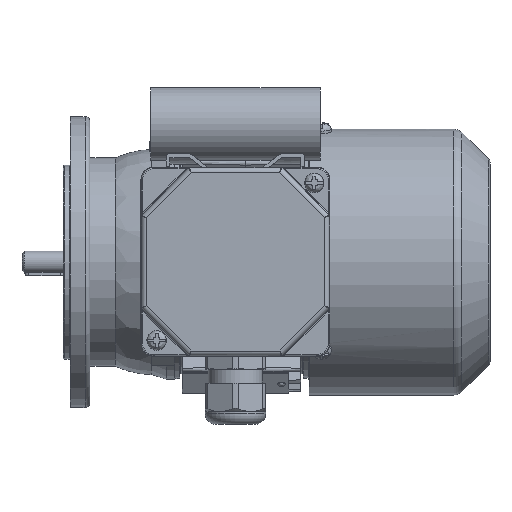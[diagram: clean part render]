
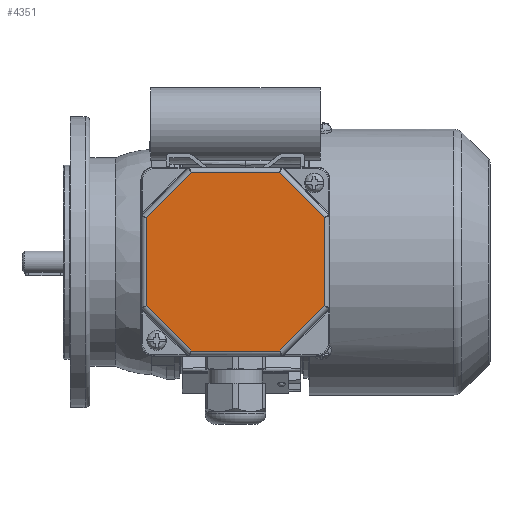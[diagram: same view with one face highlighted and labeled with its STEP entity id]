
A CAD part, top view. The second image highlights one B-rep face of the part: STEP entity #4351.
In plain terms, the highlighted planar face has unit normal (0, 0, 1).
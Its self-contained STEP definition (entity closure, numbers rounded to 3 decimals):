
#4351 = ADVANCED_FACE( '', ( #9003 ), #9004, .T. );
#9003 = FACE_OUTER_BOUND( '', #20492, .T. );
#9004 = PLANE( '', #20493 );
#20492 = EDGE_LOOP( '', ( #35400, #35401, #35402, #35403, #35404, #35405, #35406, #35407 ) );
#20493 = AXIS2_PLACEMENT_3D( '', #35408, #35409, #35410 );
#35400 = ORIENTED_EDGE( '', *, *, #43741, .T. );
#35401 = ORIENTED_EDGE( '', *, *, #44578, .T. );
#35402 = ORIENTED_EDGE( '', *, *, #44908, .T. );
#35403 = ORIENTED_EDGE( '', *, *, #41866, .T. );
#35404 = ORIENTED_EDGE( '', *, *, #44909, .T. );
#35405 = ORIENTED_EDGE( '', *, *, #44910, .T. );
#35406 = ORIENTED_EDGE( '', *, *, #44730, .T. );
#35407 = ORIENTED_EDGE( '', *, *, #43434, .T. );
#35408 = CARTESIAN_POINT( '', ( -39., 39., 12. ) );
#35409 = DIRECTION( '', ( 0., 0., 1. ) );
#35410 = DIRECTION( '', ( 1., 0., 0. ) );
#41866 = EDGE_CURVE( '', #49490, #49491, #49492, .T. );
#43434 = EDGE_CURVE( '', #51879, #47552, #51880, .T. );
#43741 = EDGE_CURVE( '', #47552, #52333, #52335, .F. );
#44578 = EDGE_CURVE( '', #52333, #52166, #53466, .T. );
#44730 = EDGE_CURVE( '', #53652, #51879, #53653, .F. );
#44908 = EDGE_CURVE( '', #52166, #49490, #53868, .F. );
#44909 = EDGE_CURVE( '', #49491, #50640, #53869, .F. );
#44910 = EDGE_CURVE( '', #50640, #53652, #53870, .T. );
#47552 = VERTEX_POINT( '', #56840 );
#49490 = VERTEX_POINT( '', #60262 );
#49491 = VERTEX_POINT( '', #60263 );
#49492 = LINE( '', #60264, #60265 );
#50640 = VERTEX_POINT( '', #63163 );
#51879 = VERTEX_POINT( '', #66194 );
#51880 = LINE( '', #66195, #66196 );
#52166 = VERTEX_POINT( '', #67066 );
#52333 = VERTEX_POINT( '', #67543 );
#52335 = LINE( '', #67545, #67546 );
#53466 = LINE( '', #70107, #70108 );
#53652 = VERTEX_POINT( '', #70586 );
#53653 = LINE( '', #70587, #70588 );
#53868 = LINE( '', #71129, #71130 );
#53869 = LINE( '', #71131, #71132 );
#53870 = LINE( '', #71133, #71134 );
#56840 = CARTESIAN_POINT( '', ( 36.825, -18.255, 12. ) );
#60262 = CARTESIAN_POINT( '', ( -18.255, 36.825, 12. ) );
#60263 = CARTESIAN_POINT( '', ( -36.825, 18.255, 12. ) );
#60264 = CARTESIAN_POINT( '', ( -37.401, 17.679, 12. ) );
#60265 = VECTOR( '', #76943, 1000. );
#63163 = CARTESIAN_POINT( '', ( -36.825, -18.255, 12. ) );
#66194 = CARTESIAN_POINT( '', ( 18.255, -36.825, 12. ) );
#66195 = CARTESIAN_POINT( '', ( 37.401, -17.679, 12. ) );
#66196 = VECTOR( '', #78702, 1000. );
#67066 = CARTESIAN_POINT( '', ( 18.255, 36.825, 12. ) );
#67543 = CARTESIAN_POINT( '', ( 36.825, 18.255, 12. ) );
#67545 = CARTESIAN_POINT( '', ( 36.825, 19.069, 12. ) );
#67546 = VECTOR( '', #79011, 1000. );
#70107 = CARTESIAN_POINT( '', ( 17.679, 37.401, 12. ) );
#70108 = VECTOR( '', #79966, 1000. );
#70586 = CARTESIAN_POINT( '', ( -18.255, -36.825, 12. ) );
#70587 = CARTESIAN_POINT( '', ( 19.069, -36.825, 12. ) );
#70588 = VECTOR( '', #80132, 1000. );
#71129 = CARTESIAN_POINT( '', ( -19.069, 36.825, 12. ) );
#71130 = VECTOR( '', #80305, 1000. );
#71131 = CARTESIAN_POINT( '', ( -36.825, -19.069, 12. ) );
#71132 = VECTOR( '', #80306, 1000. );
#71133 = CARTESIAN_POINT( '', ( -17.679, -37.401, 12. ) );
#71134 = VECTOR( '', #80307, 1000. );
#76943 = DIRECTION( '', ( -0.707, -0.707, 0. ) );
#78702 = DIRECTION( '', ( 0.707, 0.707, 0. ) );
#79011 = DIRECTION( '', ( 0., -1., 0. ) );
#79966 = DIRECTION( '', ( -0.707, 0.707, 0. ) );
#80132 = DIRECTION( '', ( -1., 0., 0. ) );
#80305 = DIRECTION( '', ( 1., 0., 0. ) );
#80306 = DIRECTION( '', ( 0., 1., 0. ) );
#80307 = DIRECTION( '', ( 0.707, -0.707, 0. ) );
